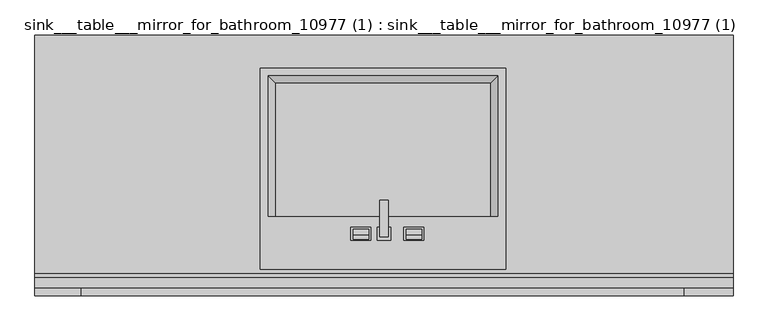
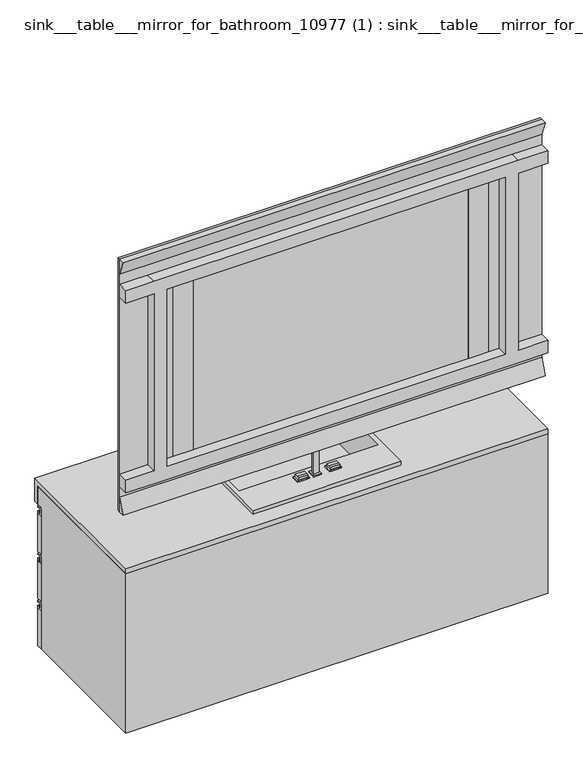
"""IFC4 building model written with IfcOpenShell, lengths in millimetres: furniture geometry, sink___table___mirror_for_bathroom_10977 (1) : sink___table___mirror_for_bathroom_10977 (1)."""

from ifc_helpers import new_model, si_unit, point, frame, frame_2d, origin, place, context, project, spatial, polyline, circle_curve, trimmed, segment, composite_curve, outline, extrude, faceted_brep, source, transform, mapped, element, save


def sink_table_mirror_for_bathroom_10977_1_sink_table_mirror_for_8c8fbd03(model_context):
    return source(origin(), model_context, "Body", "SolidModel", [
        extrude(outline(polyline([(40.0, 1991.1077375), (17.3933785, 2050.0), (40.0, 2050.0), (40.0, 1991.1077375)])), frame((-790.0, 0.0, 0.0), z_axis=(1.0, 0.0, 0.0), x_axis=(0.0, 1.0, 0.0)), (0.0, 0.0, 1.0), 1580.0),
        extrude(outline(polyline([(40.0, 1050.0), (17.3933785, 1050.0), (40.0, 1108.8922625), (40.0, 1050.0)])), frame((-790.0, 0.0, 0.0), z_axis=(1.0, 0.0, 0.0), x_axis=(0.0, 1.0, 0.0)), (0.0, 0.0, 1.0), 1580.0),
        extrude(outline(polyline([(515.0, 50.0), (590.0, 50.0), (590.0, 40.0), (515.0, 40.0), (515.0, 50.0)])), frame((0.0, 0.0, 1200.0), z_axis=(0.0, 0.0, 1.0), x_axis=(1.0, 0.0, 0.0)), (0.0, 0.0, 1.0), 700.0),
        extrude(outline(polyline([(-590.0, 50.0), (-515.0, 50.0), (-515.0, 40.0), (-590.0, 40.0), (-590.0, 50.0)])), frame((0.0, 0.0, 1200.0), z_axis=(0.0, 0.0, 1.0), x_axis=(1.0, 0.0, 0.0)), (0.0, 0.0, 1.0), 700.0),
        extrude(outline(polyline([(1900.0, 680.0), (1900.0, 790.0), (1950.0, 790.0), (1950.0, 680.0), (1950.0, -685.0), (1950.0, -790.0), (1900.0, -790.0), (1900.0, -685.0), (1200.0, -685.0), (1200.0, -790.0), (1150.0, -790.0), (1150.0, -685.0), (1150.0, 680.0), (1150.0, 790.0), (1200.0, 790.0), (1200.0, 680.0), (1900.0, 680.0)]), holes=[polyline([(1200.0, -635.0), (1900.0, -635.0), (1900.0, 630.0), (1200.0, 630.0), (1200.0, -635.0)])]), frame((0.0, 0.0, 0.0), z_axis=(0.0, 1.0, 0.0), x_axis=(0.0, 0.0, 1.0)), (0.0, 0.0, 1.0), 40.0),
        extrude(outline(polyline([(2050.0, -790.0), (1050.0, -790.0), (1050.0, 790.0), (2050.0, 790.0), (2050.0, -790.0)]), holes=[polyline([(1200.0, -515.0), (1200.0, -590.0), (1900.0, -590.0), (1900.0, -515.0), (1200.0, -515.0)]), polyline([(1900.0, 590.0), (1200.0, 590.0), (1200.0, 515.0), (1900.0, 515.0), (1900.0, 590.0)])]), frame((0.0, 40.0, 0.0), z_axis=(0.0, 1.0, 0.0), x_axis=(0.0, 0.0, 1.0)), (0.0, 0.0, 1.0), 10.0),
        extrude(outline(composite_curve([segment(trimmed(circle_curve(frame_2d((162.4887432, 875.0)), 13.0), [point((150.4887432, 880.0))], [point((150.4887432, 870.0))], True, "CARTESIAN"), True, "CONTINUOUS"), segment(polyline([(150.4887432, 870.0), (128.0269264, 870.0)]), True, "CONTINUOUS"), segment(trimmed(circle_curve(frame_2d((116.0269264, 875.0)), 13.0), [point((128.0269264, 870.0))], [point((128.0269264, 880.0))], True, "CARTESIAN"), True, "CONTINUOUS"), segment(polyline([(128.0269264, 880.0), (138.0, 880.0), (150.4887432, 880.0)]), True, "CONTINUOUS")], self_intersect=False)), frame((-70.0, 0.0, 0.0), z_axis=(1.0, 0.0, 0.0), x_axis=(0.0, 1.0, 0.0)), (0.0, 0.0, 1.0), 35.0),
        extrude(outline(composite_curve([segment(trimmed(circle_curve(frame_2d((162.4887432, 875.0)), 13.0), [point((150.4887432, 880.0))], [point((150.4887432, 870.0))], True, "CARTESIAN"), True, "CONTINUOUS"), segment(polyline([(150.4887432, 870.0), (128.0269264, 870.0)]), True, "CONTINUOUS"), segment(trimmed(circle_curve(frame_2d((116.0269264, 875.0)), 13.0), [point((128.0269264, 870.0))], [point((128.0269264, 880.0))], True, "CARTESIAN"), True, "CONTINUOUS"), segment(polyline([(128.0269264, 880.0), (138.0, 880.0), (150.4887432, 880.0)]), True, "CONTINUOUS")], self_intersect=False)), frame((50.0, 0.0, 0.0), z_axis=(1.0, 0.0, 0.0), x_axis=(0.0, 1.0, 0.0)), (0.0, 0.0, 1.0), 35.0),
        extrude(outline(polyline([(216.5476089, 960.0), (216.5476089, 950.0), (143.0, 950.0), (143.0, 870.0), (133.0, 870.0), (133.0, 960.0), (216.5476089, 960.0)])), frame((-10.0, 0.0, 0.0), z_axis=(1.0, 0.0, 0.0), x_axis=(0.0, 1.0, 0.0)), (0.0, 0.0, 1.0), 20.0),
        extrude(outline(polyline([(-15.0, 125.0), (-15.0, 155.0), (15.0, 155.0), (15.0, 125.0), (0.0, 125.0), (-15.0, 125.0)])), frame((0.0, 0.0, 865.0), z_axis=(0.0, 0.0, 1.0), x_axis=(1.0, 0.0, 0.0)), (0.0, 0.0, 1.0), 5.0),
        extrude(outline(polyline([(-75.0, 125.0), (-75.0, 155.0), (-29.5505098, 155.0), (-29.5505098, 125.0), (-60.0, 125.0), (-75.0, 125.0)])), frame((0.0, 0.0, 865.0), z_axis=(0.0, 0.0, 1.0), x_axis=(1.0, 0.0, 0.0)), (0.0, 0.0, 1.0), 5.0),
        extrude(outline(polyline([(90.072419, 125.0), (60.0, 125.0), (45.0, 125.0), (45.0, 155.0), (90.072419, 155.0), (90.072419, 125.0)])), frame((0.0, 0.0, 865.0), z_axis=(0.0, 0.0, 1.0), x_axis=(1.0, 0.0, 0.0)), (0.0, 0.0, 1.0), 5.0),
        extrude(outline(polyline([(95.0491514, 730.0), (92.8310531, 738.5435241), (482.2149877, 738.5435241), (480.0, 730.0), (95.0491514, 730.0)])), frame((-244.950685, 0.0, 0.0), z_axis=(1.0, 0.0, 0.0), x_axis=(0.0, 1.0, 0.0)), (0.0, 0.0, 1.0), 486.9551652),
        faceted_brep([(-790.0, 590.0, 760.0), (-790.0, 570.0, 760.0), (-790.0, 570.0, 830.0), (-790.0, 0.0, 830.0), (-790.0, 0.0, 850.0), (-790.0, 590.0, 850.0), (790.0, 590.0, 850.0), (790.0, 0.0, 850.0), (790.0, 0.0, 830.0), (790.0, 570.0, 830.0), (790.0, 570.0, 760.0), (790.0, 590.0, 760.0), (-280.0, 180.0, 850.0), (-280.0, 515.0, 850.0), (275.0, 515.0, 850.0), (275.0, 180.0, 850.0), (-280.0, 180.0, 830.0), (275.0, 180.0, 830.0), (275.0, 515.0, 830.0), (-280.0, 515.0, 830.0)], [[[0, 1, 2, 3, 4, 5]], [[6, 7, 8, 9, 10, 11]], [[1, 0, 11, 10]], [[2, 1, 10, 9]], [[0, 5, 6, 11]], [[4, 7, 6, 5], [12, 13, 14, 15]], [[8, 3, 2, 9], [16, 17, 18, 19]], [[7, 4, 3, 8]], [[13, 12, 16, 19]], [[14, 13, 19, 18]], [[15, 14, 18, 17]], [[12, 15, 17, 16]]]),
        extrude(outline(polyline([(570.0, 354.3092483), (570.0, 349.3092483), (550.0, 349.3092483), (550.0, 379.3092483), (570.0, 379.3092483), (570.0, 374.3092483), (555.0, 374.3092483), (555.0, 354.3092483), (565.0, 354.3092483), (565.0, 360.0), (570.0, 360.0), (570.0, 354.3092483)])), frame((-790.0, 0.0, 0.0), z_axis=(1.0, 0.0, 0.0), x_axis=(0.0, 1.0, 0.0)), (0.0, 0.0, 1.0), 527.0),
        extrude(outline(polyline([(570.0, 541.3092483), (570.0, 536.3092483), (550.0, 536.3092483), (550.0, 566.3092483), (570.0, 566.3092483), (570.0, 561.3092483), (555.0, 561.3092483), (555.0, 541.3092483), (565.0, 541.3092483), (565.0, 547.0), (570.0, 547.0), (570.0, 541.3092483)])), frame((-790.0, 0.0, 0.0), z_axis=(1.0, 0.0, 0.0), x_axis=(0.0, 1.0, 0.0)), (0.0, 0.0, 1.0), 527.0),
        extrude(outline(polyline([(570.0, 728.3092483), (570.0, 723.3092483), (550.0, 723.3092483), (550.0, 753.3092483), (570.0, 753.3092483), (570.0, 748.3092483), (555.0, 748.3092483), (555.0, 728.3092483), (565.0, 728.3092483), (565.0, 734.0), (570.0, 734.0), (570.0, 728.3092483)])), frame((-790.0, 0.0, 0.0), z_axis=(1.0, 0.0, 0.0), x_axis=(0.0, 1.0, 0.0)), (0.0, 0.0, 1.0), 527.0),
        extrude(outline(polyline([(570.0, 354.3092483), (570.0, 349.3092483), (550.0, 349.3092483), (550.0, 379.3092483), (570.0, 379.3092483), (570.0, 374.3092483), (555.0, 374.3092483), (555.0, 354.3092483), (565.0, 354.3092483), (565.0, 360.0), (570.0, 360.0), (570.0, 354.3092483)])), frame((263.0, 0.0, 0.0), z_axis=(1.0, 0.0, 0.0), x_axis=(0.0, 1.0, 0.0)), (0.0, 0.0, 1.0), 527.0),
        extrude(outline(polyline([(570.0, 541.3092483), (570.0, 536.3092483), (550.0, 536.3092483), (550.0, 566.3092483), (570.0, 566.3092483), (570.0, 561.3092483), (555.0, 561.3092483), (555.0, 541.3092483), (565.0, 541.3092483), (565.0, 547.0), (570.0, 547.0), (570.0, 541.3092483)])), frame((263.0, 0.0, 0.0), z_axis=(1.0, 0.0, 0.0), x_axis=(0.0, 1.0, 0.0)), (0.0, 0.0, 1.0), 527.0),
        extrude(outline(polyline([(570.0, 728.3092483), (570.0, 723.3092483), (550.0, 723.3092483), (550.0, 753.3092483), (570.0, 753.3092483), (570.0, 748.3092483), (555.0, 748.3092483), (555.0, 728.3092483), (565.0, 728.3092483), (565.0, 734.0), (570.0, 734.0), (570.0, 728.3092483)])), frame((263.0, 0.0, 0.0), z_axis=(1.0, 0.0, 0.0), x_axis=(0.0, 1.0, 0.0)), (0.0, 0.0, 1.0), 527.0),
        extrude(outline(polyline([(-790.0, 550.0), (-790.0, 570.0), (-263.0, 570.0), (-263.0, 550.0), (-790.0, 550.0)])), frame((0.0, 0.0, 574.0), z_axis=(0.0, 0.0, 1.0), x_axis=(1.0, 0.0, 0.0)), (0.0, 0.0, 1.0), 149.3092483),
        extrude(outline(polyline([(-790.0, 550.0), (-790.0, 570.0), (-263.0, 570.0), (-263.0, 550.0), (-790.0, 550.0)])), frame((0.0, 0.0, 387.0), z_axis=(0.0, 0.0, 1.0), x_axis=(1.0, 0.0, 0.0)), (0.0, 0.0, 1.0), 149.3092483),
        extrude(outline(polyline([(-790.0, 550.0), (-790.0, 570.0), (-263.0, 570.0), (-263.0, 550.0), (-790.0, 550.0)])), frame((0.0, 0.0, 200.0), z_axis=(0.0, 0.0, 1.0), x_axis=(1.0, 0.0, 0.0)), (0.0, 0.0, 1.0), 149.3092483),
        extrude(outline(polyline([(263.0, 550.0), (263.0, 570.0), (790.0, 570.0), (790.0, 550.0), (263.0, 550.0)])), frame((0.0, 0.0, 574.0), z_axis=(0.0, 0.0, 1.0), x_axis=(1.0, 0.0, 0.0)), (0.0, 0.0, 1.0), 149.3092483),
        extrude(outline(polyline([(263.0, 550.0), (263.0, 570.0), (790.0, 570.0), (790.0, 550.0), (263.0, 550.0)])), frame((0.0, 0.0, 387.0), z_axis=(0.0, 0.0, 1.0), x_axis=(1.0, 0.0, 0.0)), (0.0, 0.0, 1.0), 149.3092483),
        extrude(outline(polyline([(263.0, 550.0), (263.0, 570.0), (790.0, 570.0), (790.0, 550.0), (263.0, 550.0)])), frame((0.0, 0.0, 200.0), z_axis=(0.0, 0.0, 1.0), x_axis=(1.0, 0.0, 0.0)), (0.0, 0.0, 1.0), 149.3092483),
        faceted_brep([(-790.0, 550.0, 200.0), (-790.0, 0.0, 200.0), (-790.0, 0.0, 830.0), (-790.0, 570.0, 830.0), (-790.0, 570.0, 760.0), (-790.0, 550.0, 760.0), (790.0, 550.0, 200.0), (790.0, 550.0, 760.0), (790.0, 570.0, 760.0), (790.0, 570.0, 830.0), (790.0, 0.0, 830.0), (790.0, 0.0, 200.0), (265.9259259, 505.9259259, 830.0), (265.9259259, 180.0, 830.0), (252.771547, 180.0, 830.0), (-257.771547, 180.0, 830.0), (-270.9259259, 180.0, 830.0), (-270.9259259, 505.9259259, 830.0), (263.5, 550.0, 760.0), (263.5, 37.6609115, 760.0), (-263.5, 37.6609115, 760.0), (-263.5, 550.0, 760.0), (247.7777778, 180.0, 760.0), (247.7777778, 487.7777778, 760.0), (-252.7777778, 487.7777778, 760.0), (-252.7777778, 180.0, 760.0), (-248.8314641, 180.0, 760.0), (243.8314641, 180.0, 760.0), (-263.5, 550.0, 220.0), (263.5, 550.0, 220.0), (263.5, 37.6609115, 220.0), (-263.5, 37.6609115, 220.0), (240.0, 480.0, 730.0), (257.2415885, 497.2415885, 865.0), (-262.2415885, 497.2415885, 865.0), (-245.0, 480.0, 730.0), (-245.0, 180.0, 730.0), (-262.2415885, 180.0, 865.0), (-260.3258564, 180.0, 850.0), (257.2415885, 180.0, 865.0), (255.3258564, 180.0, 850.0), (240.0, 180.0, 730.0), (-280.0, 60.0, 865.0), (275.0, 60.0, 865.0), (275.0, 515.0, 865.0), (-280.0, 515.0, 865.0), (-276.1111111, 180.0, 850.0), (-265.0, 180.0, 850.0), (271.1111111, 180.0, 850.0), (260.0, 180.0, 850.0), (271.1111111, 511.1111111, 850.0), (-276.1111111, 511.1111111, 850.0), (-280.0, 60.0, 850.0), (-280.0, 515.0, 850.0), (275.0, 515.0, 850.0), (275.0, 60.0, 850.0)], [[[0, 1, 2, 3, 4, 5]], [[6, 7, 8, 9, 10, 11]], [[1, 0, 6, 11]], [[2, 1, 11, 10]], [[3, 2, 10, 9], [12, 13, 14, 15, 16, 17]], [[4, 3, 9, 8]], [[5, 4, 8, 7, 18, 19, 20, 21], [22, 23, 24, 25, 26, 27]], [[0, 5, 21, 28, 29, 18, 7, 6]], [[29, 30, 19, 18]], [[21, 20, 31, 28]], [[19, 30, 31, 20]], [[30, 29, 28, 31]], [[32, 33, 34, 35]], [[15, 26, 36, 35, 34, 37, 38]], [[26, 15, 14, 27]], [[38, 37, 39, 40]], [[27, 14, 40, 39, 33, 32, 41]], [[42, 43, 44, 45], [34, 33, 39, 37]], [[41, 22, 27]], [[25, 36, 26]], [[46, 16, 15, 38, 47]], [[13, 48, 49, 40, 14]], [[13, 12, 50, 48]], [[22, 41, 32, 23]], [[12, 17, 51, 50]], [[23, 32, 35, 24]], [[17, 16, 46, 51]], [[36, 25, 24, 35]], [[52, 53, 54, 55], [46, 47, 38, 40, 49, 48, 50, 51]], [[43, 42, 52, 55]], [[55, 54, 44, 43]], [[54, 53, 45, 44]], [[53, 52, 42, 45]]]),
    ])


if __name__ == "__main__":
    model = new_model("IFC4")
    model_context = context("Model", 3, world=origin())
    ifc_project = project(units=[si_unit("LENGTHUNIT", "METRE", prefix="MILLI")], contexts=[model_context])
    site = spatial("IfcSite", under=ifc_project)
    building = spatial("IfcBuilding", under=site)
    placement = place(None, origin())
    sink_table_mirror_for_bathroom_10977_1_sink_table_mirror_for_shape = sink_table_mirror_for_bathroom_10977_1_sink_table_mirror_for_8c8fbd03(model_context)
    element("IfcFurniture", 1, ObjectType="sink___table___mirror_for_bathroom_10977 (1) : sink___table___mirror_for_bathroom_10977 (1)", at=placement, inside=building, context=model_context, shape_type="MappedRepresentation", body=[
        mapped(sink_table_mirror_for_bathroom_10977_1_sink_table_mirror_for_shape, transform((0.0, 0.0, 0.0), x_axis=(1.0, 0.0, 0.0), y_axis=(0.0, 1.0, 0.0), z_axis=(0.0, 0.0, 1.0))),
    ])
    save(model, "model.ifc")
